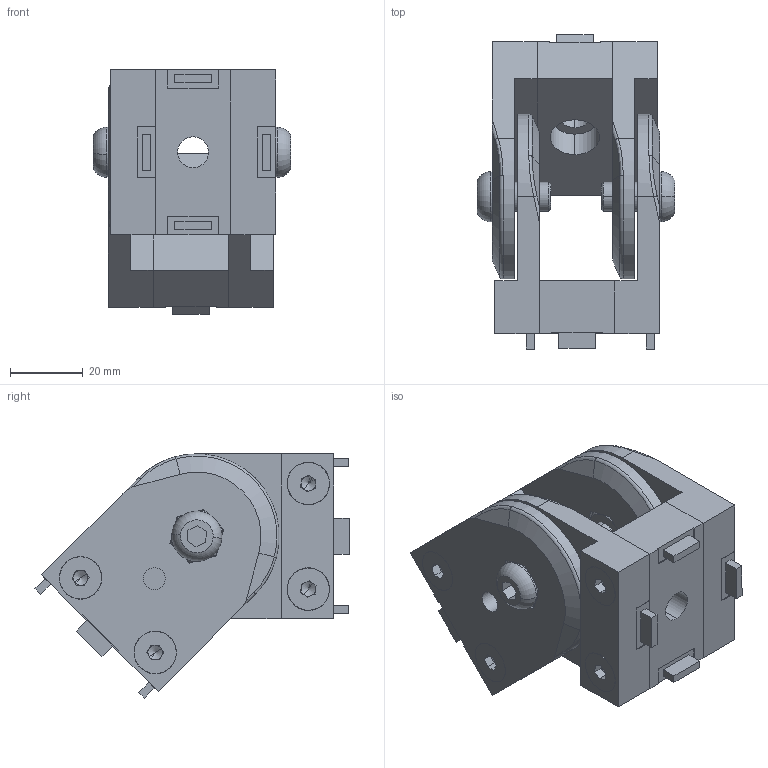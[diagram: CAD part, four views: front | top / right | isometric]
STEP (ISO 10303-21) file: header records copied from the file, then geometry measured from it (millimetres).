
FILE_DESCRIPTION (( 'STEP AP214' ), '1' );
FILE_NAME ('SNSD.30.51.84. Øàðíèðíûé ñîåäèíèòåëü 45õ45Ó, ïàç 10(B00).STEP', '2015-05-20T12:16:50', ( 'user' ), ( '' ), 'SwSTEP 2.0', 'SolidWorks 2014', '' );
FILE_SCHEMA (( 'AUTOMOTIVE_DESIGN' ));
Length unit declared in the file: millimetre
Products named in the file (27): SNSD.30.51.83. 鎔艜(E04)B00_00; SNSD.30.51.80. Âòóëêà ñ ðåçüáîé(D13)E01E00E04B00; SNSD.30.51.80. Âòóëêà ñ ðåçüáîé(D13)E01E00E04B00_00; Øàðíèðíûé ñîåäèíèòåëü 45õ45, ïàç 10(B00); socket countersunk head screw_din_DIN 7991 - M6 x 20 --- 13.7S; socket countersunk head screw_din; SNSD.30.51.80. Áîêîâàÿ ÷àñòü øàðíèðíîãî ñîåäèíèòåëÿ 45õ45, ïàç 10(B00)_00; SNSD.30.51.80. Îñíîâíàÿ ÷àñòü øàðíèðíîãî ñîåäèíèòåëÿ 45õ45, ïàç 10(B00)_00; SNSD.30.51.83. 鎔艜(E04)B00; SNSD.30.51.80. Áîêîâàÿ ÷àñòü øàðíèðíîãî ñîåäèíèòåëÿ 45õ45, ïàç 10(B00); SNSD.30.51.80. Îñíîâíàÿ ÷àñòü øàðíèðíîãî ñîåäèíèòåëÿ 45õ45, ïàç 10(B00); SNSD.30.51.84. Øàðíèðíûé ñîåäèíèòåëü 45õ45Ó, ïàç 10(B00)
Assembly tree (15 placements, depth 3):
  SNSD.30.51.80. Âòóëêà ñ ðåçüáîé(D13)E01E00E04B00
  SNSD.30.51.80. Âòóëêà ñ ðåçüáîé(D13)E01E00E04B00
  SNSD.30.51.80. Âòóëêà ñ ðåçüáîé(D13)E01E00E04B00
  SNSD.30.51.80. Âòóëêà ñ ðåçüáîé(D13)E01E00E04B00
  socket countersunk head screw_din
Bounding box: 54.3 x 86.33 x 67.13 mm (x, y, z)
Volume: 96741.8 mm3; surface area: 49308.8 mm2
Topology: 24 solids, 24 shells, 1286 faces, 3220 edges, 1992 vertices
Faces by surface type: cone 584, cylinder 348, plane 322, torus 24, bspline 8
Entity records: 7947 total; most frequent: CARTESIAN_POINT 1428, DIRECTION 1338, ORIENTED_EDGE 1184, EDGE_CURVE 592, AXIS2_PLACEMENT_3D 509, VERTEX_POINT 371, LINE 320, VECTOR 320
